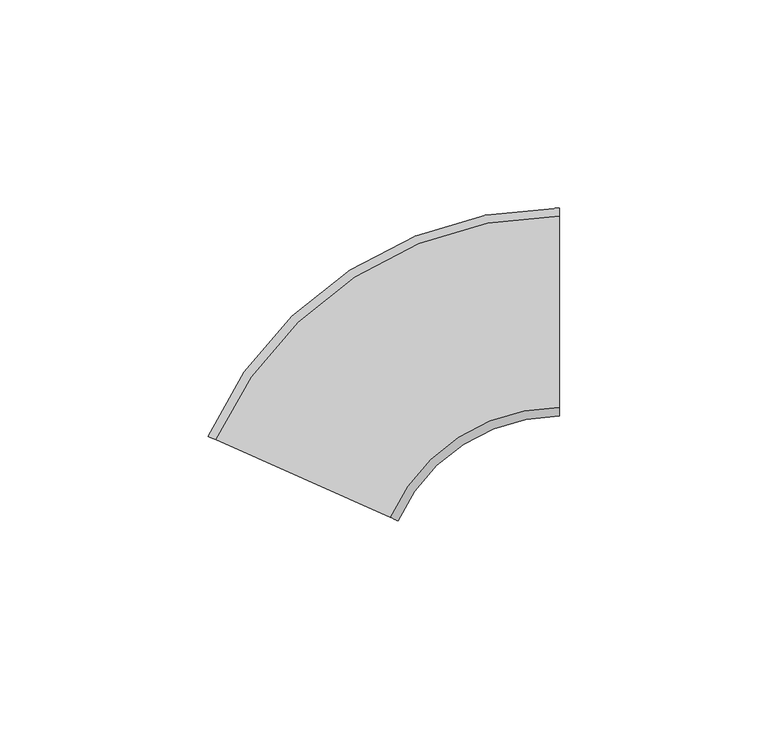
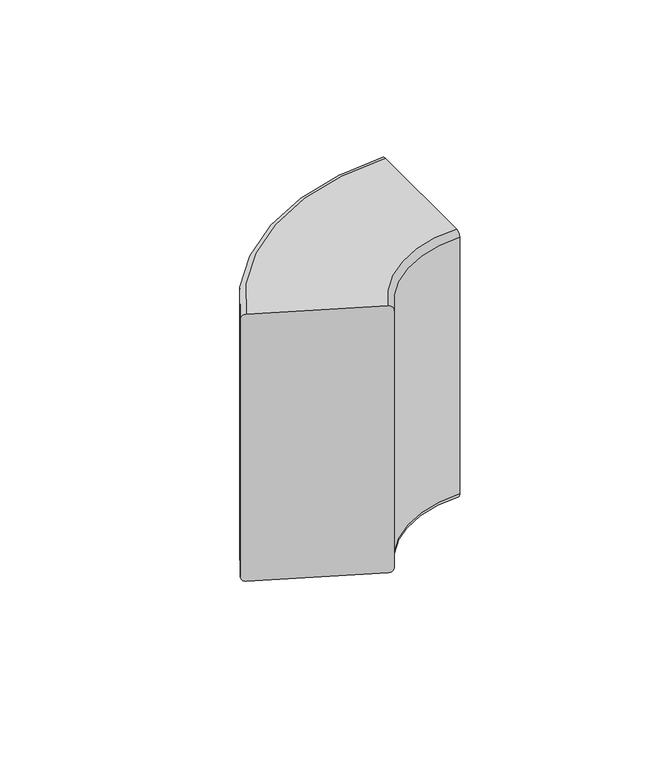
"""IFC4 building model written with IfcOpenShell, lengths in millimetres: duct fitting geometry, Угол внеш. 80х50 бел. для Кат.№ 0 106 22 : Угол внешний переменный от 60° до 120° - для кабель-каналов DLP 50х105 - белый."""

from ifc_helpers import new_model, si_unit, point, frame, origin, place, context, project, spatial, polyline, circle_curve, ellipse_curve, trimmed, source, transform, mapped, element, save
from ifc_brep_helpers import plane_surface, cylinder_surface, revolved_surface, advanced_brep


def duct_fitting_d79518f6(model_context):
    return source(origin(), model_context, "Body", "AdvancedBrep", [
        advanced_brep(
        [(-15.1758639, -58.1450572, 52.5), (-17.0029548, -57.3315839, 50.5), (-17.0029548, -57.3315839, -50.5), (-15.1758639, -58.1450572, -52.5), (26.8472271, -76.8549428, -52.5), (28.6743181, -77.6684161, -50.5), (28.6743181, -77.6684161, 50.5), (26.8472271, -76.8549428, 52.5), (67.5, -4.4547234, 52.5), (67.5, -50.4547234, 52.5), (67.5, -52.4547234, 50.5), (67.5, -52.4547234, -50.5), (67.5, -50.4547234, -52.5), (67.5, -4.4547234, -52.5), (67.5, -2.4547234, -50.5), (67.5, -2.4547234, 50.5)],
        [
            (0, 1, circle_curve(frame((-15.1758639, -58.1450572, 50.5), z_axis=(-0.4067366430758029, -0.9135454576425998, 0.0), x_axis=(-0.9135454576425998, 0.4067366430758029, 0.0)), 2.0)),
            (1, 2),
            (2, 3, circle_curve(frame((-15.1758639, -58.1450572, -50.5), z_axis=(-0.4067366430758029, -0.9135454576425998, 0.0), x_axis=(-0.9135454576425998, 0.4067366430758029, 0.0)), 2.0)),
            (3, 4),
            (4, 5, circle_curve(frame((26.8472271, -76.8549428, -50.5), z_axis=(-0.4067366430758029, -0.9135454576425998, 0.0), x_axis=(-0.9135454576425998, 0.4067366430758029, 0.0)), 2.0)),
            (5, 6),
            (6, 7, circle_curve(frame((26.8472271, -76.8549428, 50.5), z_axis=(-0.4067366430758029, -0.9135454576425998, 0.0), x_axis=(-0.9135454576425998, 0.4067366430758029, 0.0)), 2.0)),
            (7, 0),
            (8, 9),
            (9, 10, circle_curve(frame((67.5, -50.4547234, 50.5), z_axis=(1.0, 0.0, 0.0), x_axis=(0.0, 1.0, 0.0)), 2.0)),
            (10, 11),
            (11, 12, circle_curve(frame((67.5, -50.4547234, -50.5), z_axis=(1.0, 0.0, 0.0), x_axis=(0.0, 1.0, 0.0)), 2.0)),
            (12, 13),
            (13, 14, circle_curve(frame((67.5, -4.4547234, -50.5), z_axis=(1.0, 0.0, 0.0), x_axis=(0.0, 1.0, 0.0)), 2.0)),
            (14, 15),
            (15, 8, circle_curve(frame((67.5, -4.4547234, 50.5), z_axis=(1.0, 0.0, 0.0), x_axis=(0.0, 1.0, 0.0)), 2.0)),
            (15, 1, circle_curve(frame((67.5, -94.9547234, 50.5), z_axis=(0.0, 0.0, 1.0), x_axis=(-0.9135454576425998, 0.4067366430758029, 0.0)), 92.5)),
            (0, 8, circle_curve(frame((67.5, -94.9547234, 52.5), z_axis=(0.0, 0.0, -1.0), x_axis=(-0.9135454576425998, 0.4067366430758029, 0.0)), 90.5)),
            (14, 2, circle_curve(frame((67.5, -94.9547234, -50.5), z_axis=(0.0, 0.0, 1.0), x_axis=(-0.9135454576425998, 0.4067366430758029, 0.0)), 92.5)),
            (13, 3, circle_curve(frame((67.5, -94.9547234, -52.5), z_axis=(0.0, 0.0, 1.0), x_axis=(-0.9135454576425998, 0.4067366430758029, 0.0)), 90.5)),
            (12, 4, circle_curve(frame((67.5, -94.9547234, -52.5), z_axis=(0.0, 0.0, 1.0), x_axis=(-0.9135454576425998, 0.4067366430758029, 0.0)), 44.5)),
            (11, 5, circle_curve(frame((67.5, -94.9547234, -50.5), z_axis=(0.0, 0.0, 1.0), x_axis=(-0.9135454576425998, 0.4067366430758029, 0.0)), 42.5)),
            (10, 6, circle_curve(frame((67.5, -94.9547234, 50.5), z_axis=(0.0, 0.0, 1.0), x_axis=(-0.9135454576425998, 0.4067366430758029, 0.0)), 42.5)),
            (9, 7, circle_curve(frame((67.5, -94.9547234, 52.5), z_axis=(0.0, 0.0, 1.0), x_axis=(-0.9135454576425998, 0.4067366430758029, 0.0)), 44.5)),
        ],
        [
            plane_surface(frame((5.8356816, -67.5, 0.0), z_axis=(-0.4067366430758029, -0.9135454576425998, 0.0), x_axis=(0.0, 0.0, 1.0))),
            plane_surface(frame((67.5, -27.4547234, 0.0), z_axis=(1.0, 0.0, 0.0), x_axis=(0.0, 0.0, 1.0))),
            revolved_surface(trimmed(ellipse_curve(frame((-15.1758639, -58.1450572, 50.5), z_axis=(-0.4067366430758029, -0.9135454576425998, 0.0), x_axis=(-0.9135454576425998, 0.4067366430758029, 0.0)), 2.0, 2.0), [point((-15.1758639, -58.1450572, 52.5))], [point((-17.0029548, -57.3315839, 50.5))], True, "CARTESIAN"), (67.5, -94.9547234, 0.0), (0.0, 0.0, -1.0)),
            cylinder_surface(frame((67.5, -94.9547234, 0.0), z_axis=(0.0, 0.0, -1.0), x_axis=(-0.9135454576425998, 0.4067366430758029, 0.0)), 92.5),
            revolved_surface(trimmed(ellipse_curve(frame((-15.1758639, -58.1450572, -50.5), z_axis=(-0.4067366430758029, -0.9135454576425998, 0.0), x_axis=(-0.9135454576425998, 0.4067366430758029, 0.0)), 2.0, 2.0), [point((-17.0029548, -57.3315839, -50.5))], [point((-15.1758639, -58.1450572, -52.5))], True, "CARTESIAN"), (67.5, -94.9547234, 0.0), (0.0, 0.0, -1.0)),
            plane_surface(frame((67.5, -94.9547234, -52.5), z_axis=(0.0, 0.0, -1.0), x_axis=(-0.9135454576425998, 0.4067366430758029, 0.0))),
            revolved_surface(trimmed(ellipse_curve(frame((26.8472271, -76.8549428, -50.5), z_axis=(-0.4067366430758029, -0.9135454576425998, 0.0), x_axis=(-0.9135454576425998, 0.4067366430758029, 0.0)), 2.0, 2.0), [point((26.8472271, -76.8549428, -52.5))], [point((28.6743181, -77.6684161, -50.5))], True, "CARTESIAN"), (67.5, -94.9547234, 0.0), (0.0, 0.0, -1.0)),
            revolved_surface(polyline([(28.674318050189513, -77.66841606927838, -50.5), (28.674318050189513, -77.66841606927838, 50.5)]), (67.5, -94.9547234, 0.0), (0.0, 0.0, -1.0)),
            revolved_surface(trimmed(ellipse_curve(frame((26.8472271, -76.8549428, 50.5), z_axis=(-0.4067366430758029, -0.9135454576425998, 0.0), x_axis=(-0.9135454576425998, 0.4067366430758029, 0.0)), 2.0, 2.0), [point((28.6743181, -77.6684161, 50.5))], [point((26.8472271, -76.8549428, 52.5))], True, "CARTESIAN"), (67.5, -94.9547234, 0.0), (0.0, 0.0, -1.0)),
            plane_surface(frame((67.5, -94.9547234, 52.5), z_axis=(0.0, 0.0, 1.0), x_axis=(-0.9135454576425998, 0.4067366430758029, 0.0))),
        ],
        [
            (0, [[1, 2, 3, 4, 5, 6, 7, 8]]),
            (1, [[9, 10, 11, 12, 13, 14, 15, 16]]),
            (2, [[17, -1, 18, -16]]),
            (3, [[19, -2, -17, -15]]),
            (4, [[20, -3, -19, -14]]),
            (5, [[21, -4, -20, -13]]),
            (6, [[22, -5, -21, -12]]),
            (7, [[23, -6, -22, -11]]),
            (8, [[24, -7, -23, -10]]),
            (9, [[-18, -8, -24, -9]]),
        ],
    ),
    ])


if __name__ == "__main__":
    model = new_model("IFC4")
    model_context = context("Model", 3, world=origin())
    ifc_project = project(units=[si_unit("LENGTHUNIT", "METRE", prefix="MILLI")], contexts=[model_context])
    site = spatial("IfcSite", under=ifc_project)
    building = spatial("IfcBuilding", under=site)
    placement = place(None, origin())
    duct_fitting_shape = duct_fitting_d79518f6(model_context)
    element("IfcDuctFitting", 1, ObjectType="Угол внеш. 80х50 бел. для Кат.№ 0 106 22 : Угол внешний переменный от 60° до 120° - для кабель-каналов DLP 50х105 - белый", at=placement, inside=building, context=model_context, shape_type="MappedRepresentation", body=[
        mapped(duct_fitting_shape, transform((0.0, 0.0, 0.0), x_axis=(1.0, 0.0, 0.0), y_axis=(0.0, 1.0, 0.0), z_axis=(0.0, 0.0, 1.0))),
    ])
    save(model, "model.ifc")
